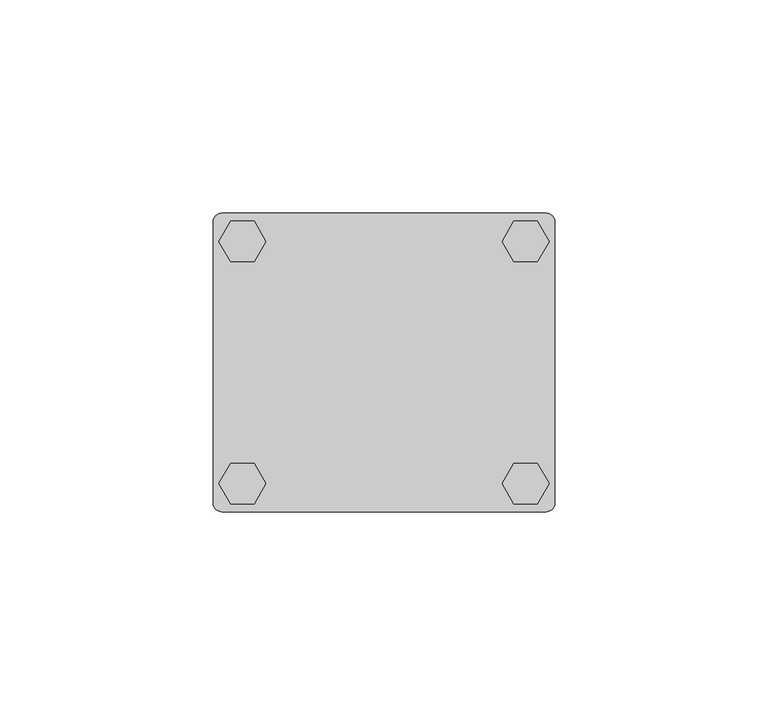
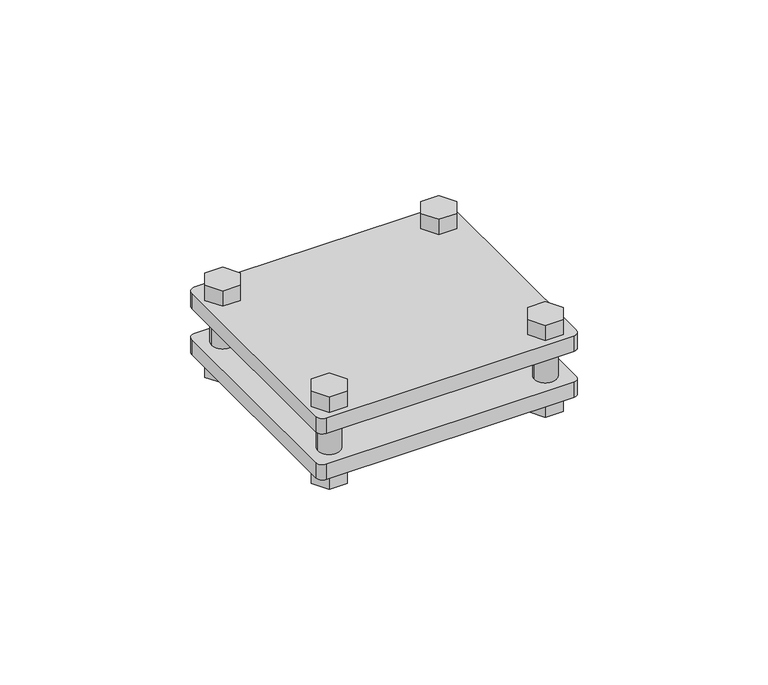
"""IFC4 building model written with IfcOpenShell, lengths in millimetres: proxy geometry, КНС_СоединительПолосаПолоса_DKC : NG3105CU_Медь_80х70 мм."""

from ifc_helpers import new_model, si_unit, point, frame, frame_2d, origin, place, context, project, spatial, polyline, circle_curve, trimmed, segment, composite_curve, outline, extrude, source, transform, mapped, element, save


def security_devices_68ae9aea(model_context):
    return source(origin(), model_context, "Body", "SweptSolid", [
        extrude(outline(composite_curve([segment(trimmed(circle_curve(frame_2d((-33.2121057, 28.28125)), 3.4209609), [point((-36.6330666, 28.28125))], [point((-29.7911448, 28.28125))], False, "CARTESIAN"), True, "CONTINUOUS"), segment(trimmed(circle_curve(frame_2d((-33.2121057, 28.28125)), 3.4209609), [point((-29.7911448, 28.28125))], [point((-36.6330666, 28.28125))], False, "CARTESIAN"), True, "CONTINUOUS")], self_intersect=False)), frame((0.0, 0.0, -10.0), z_axis=(0.0, 0.0, 1.0), x_axis=(1.0, 0.0, 0.0)), (0.0, 0.0, 1.0), 20.0),
        extrude(outline(composite_curve([segment(trimmed(circle_curve(frame_2d((33.2121057, 28.28125)), 3.4209609), [point((29.7911448, 28.28125))], [point((36.6330666, 28.28125))], False, "CARTESIAN"), True, "CONTINUOUS"), segment(trimmed(circle_curve(frame_2d((33.2121057, 28.28125)), 3.4209609), [point((36.6330666, 28.28125))], [point((29.7911448, 28.28125))], False, "CARTESIAN"), True, "CONTINUOUS")], self_intersect=False)), frame((0.0, 0.0, -10.0), z_axis=(0.0, 0.0, 1.0), x_axis=(1.0, 0.0, 0.0)), (0.0, 0.0, 1.0), 20.0),
        extrude(outline(composite_curve([segment(trimmed(circle_curve(frame_2d((-33.2121057, -28.28125)), 3.4209609), [point((-36.6330666, -28.28125))], [point((-29.7911448, -28.28125))], False, "CARTESIAN"), True, "CONTINUOUS"), segment(trimmed(circle_curve(frame_2d((-33.2121057, -28.28125)), 3.4209609), [point((-29.7911448, -28.28125))], [point((-36.6330666, -28.28125))], False, "CARTESIAN"), True, "CONTINUOUS")], self_intersect=False)), frame((0.0, 0.0, -10.0), z_axis=(0.0, 0.0, 1.0), x_axis=(1.0, 0.0, 0.0)), (0.0, 0.0, 1.0), 20.0),
        extrude(outline(composite_curve([segment(trimmed(circle_curve(frame_2d((33.2121057, -28.28125)), 3.4209609), [point((29.7911448, -28.28125))], [point((36.6330666, -28.28125))], False, "CARTESIAN"), True, "CONTINUOUS"), segment(trimmed(circle_curve(frame_2d((33.2121057, -28.28125)), 3.4209609), [point((36.6330666, -28.28125))], [point((29.7911448, -28.28125))], False, "CARTESIAN"), True, "CONTINUOUS")], self_intersect=False)), frame((0.0, 0.0, -10.0), z_axis=(0.0, 0.0, 1.0), x_axis=(1.0, 0.0, 0.0)), (0.0, 0.0, 1.0), 20.0),
        extrude(outline(polyline([(-38.6996224, 28.3883083), (-35.955864, 33.1406371), (-30.4683473, 33.1406371), (-27.724589, 28.3883083), (-30.4683473, 23.6359794), (-35.955864, 23.6359794), (-38.6996224, 28.3883083)])), frame((0.0, 0.0, -15.0), z_axis=(0.0, 0.0, 1.0), x_axis=(1.0, 0.0, 0.0)), (0.0, 0.0, 1.0), 5.0),
        extrude(outline(polyline([(38.6996224, 28.3883083), (35.955864, 23.6359794), (30.4683473, 23.6359794), (27.724589, 28.3883083), (30.4683473, 33.1406371), (35.955864, 33.1406371), (38.6996224, 28.3883083)])), frame((0.0, 0.0, -15.0), z_axis=(0.0, 0.0, 1.0), x_axis=(1.0, 0.0, 0.0)), (0.0, 0.0, 1.0), 5.0),
        extrude(outline(polyline([(-38.6996224, -28.3883083), (-35.955864, -23.6359794), (-30.4683473, -23.6359794), (-27.724589, -28.3883083), (-30.4683473, -33.1406371), (-35.955864, -33.1406371), (-38.6996224, -28.3883083)])), frame((0.0, 0.0, -15.0), z_axis=(0.0, 0.0, 1.0), x_axis=(1.0, 0.0, 0.0)), (0.0, 0.0, 1.0), 5.0),
        extrude(outline(polyline([(38.6996224, -28.3883083), (35.955864, -33.1406371), (30.4683473, -33.1406371), (27.724589, -28.3883083), (30.4683473, -23.6359794), (35.955864, -23.6359794), (38.6996224, -28.3883083)])), frame((0.0, 0.0, -15.0), z_axis=(0.0, 0.0, 1.0), x_axis=(1.0, 0.0, 0.0)), (0.0, 0.0, 1.0), 5.0),
        extrude(outline(polyline([(-38.6996224, 28.3883083), (-35.955864, 33.1406371), (-30.4683473, 33.1406371), (-27.724589, 28.3883083), (-30.4683473, 23.6359794), (-35.955864, 23.6359794), (-38.6996224, 28.3883083)])), frame((0.0, 0.0, 10.0), z_axis=(0.0, 0.0, 1.0), x_axis=(1.0, 0.0, 0.0)), (0.0, 0.0, 1.0), 5.0),
        extrude(outline(polyline([(38.6996224, 28.3883083), (35.955864, 23.6359794), (30.4683473, 23.6359794), (27.724589, 28.3883083), (30.4683473, 33.1406371), (35.955864, 33.1406371), (38.6996224, 28.3883083)])), frame((0.0, 0.0, 10.0), z_axis=(0.0, 0.0, 1.0), x_axis=(1.0, 0.0, 0.0)), (0.0, 0.0, 1.0), 5.0),
        extrude(outline(polyline([(-38.6996224, -28.3883083), (-35.955864, -23.6359794), (-30.4683473, -23.6359794), (-27.724589, -28.3883083), (-30.4683473, -33.1406371), (-35.955864, -33.1406371), (-38.6996224, -28.3883083)])), frame((0.0, 0.0, 10.0), z_axis=(0.0, 0.0, 1.0), x_axis=(1.0, 0.0, 0.0)), (0.0, 0.0, 1.0), 5.0),
        extrude(outline(polyline([(38.6996224, -28.3883083), (35.955864, -33.1406371), (30.4683473, -33.1406371), (27.724589, -28.3883083), (30.4683473, -23.6359794), (35.955864, -23.6359794), (38.6996224, -28.3883083)])), frame((0.0, 0.0, 10.0), z_axis=(0.0, 0.0, 1.0), x_axis=(1.0, 0.0, 0.0)), (0.0, 0.0, 1.0), 5.0),
        extrude(outline(composite_curve([segment(trimmed(circle_curve(frame_2d((38.0, 33.0)), 2.0), [point((38.0, 35.0))], [point((40.0, 33.0))], False, "CARTESIAN"), True, "CONTINUOUS"), segment(polyline([(40.0, 33.0), (40.0, -33.0)]), True, "CONTINUOUS"), segment(trimmed(circle_curve(frame_2d((38.0, -33.0)), 2.0), [point((40.0, -33.0))], [point((38.0, -35.0))], False, "CARTESIAN"), True, "CONTINUOUS"), segment(polyline([(38.0, -35.0), (-38.0, -35.0)]), True, "CONTINUOUS"), segment(trimmed(circle_curve(frame_2d((-38.0, -33.0)), 2.0), [point((-38.0, -35.0))], [point((-40.0, -33.0))], False, "CARTESIAN"), True, "CONTINUOUS"), segment(polyline([(-40.0, -33.0), (-40.0, 33.0)]), True, "CONTINUOUS"), segment(trimmed(circle_curve(frame_2d((-38.0, 33.0)), 2.0), [point((-40.0, 33.0))], [point((-38.0, 35.0))], False, "CARTESIAN"), True, "CONTINUOUS"), segment(polyline([(-38.0, 35.0), (38.0, 35.0)]), True, "CONTINUOUS")], self_intersect=False)), frame((0.0, 0.0, -10.0), z_axis=(0.0, 0.0, 1.0), x_axis=(1.0, 0.0, 0.0)), (0.0, 0.0, 1.0), 5.0),
        extrude(outline(composite_curve([segment(trimmed(circle_curve(frame_2d((38.0, 33.0)), 2.0), [point((38.0, 35.0))], [point((40.0, 33.0))], False, "CARTESIAN"), True, "CONTINUOUS"), segment(polyline([(40.0, 33.0), (40.0, -33.0)]), True, "CONTINUOUS"), segment(trimmed(circle_curve(frame_2d((38.0, -33.0)), 2.0), [point((40.0, -33.0))], [point((38.0, -35.0))], False, "CARTESIAN"), True, "CONTINUOUS"), segment(polyline([(38.0, -35.0), (-38.0, -35.0)]), True, "CONTINUOUS"), segment(trimmed(circle_curve(frame_2d((-38.0, -33.0)), 2.0), [point((-38.0, -35.0))], [point((-40.0, -33.0))], False, "CARTESIAN"), True, "CONTINUOUS"), segment(polyline([(-40.0, -33.0), (-40.0, 33.0)]), True, "CONTINUOUS"), segment(trimmed(circle_curve(frame_2d((-38.0, 33.0)), 2.0), [point((-40.0, 33.0))], [point((-38.0, 35.0))], False, "CARTESIAN"), True, "CONTINUOUS"), segment(polyline([(-38.0, 35.0), (38.0, 35.0)]), True, "CONTINUOUS")], self_intersect=False)), frame((0.0, 0.0, 5.0), z_axis=(0.0, 0.0, 1.0), x_axis=(1.0, 0.0, 0.0)), (0.0, 0.0, 1.0), 5.0),
    ])


if __name__ == "__main__":
    model = new_model("IFC4")
    model_context = context("Model", 3, world=origin())
    ifc_project = project(units=[si_unit("LENGTHUNIT", "METRE", prefix="MILLI")], contexts=[model_context])
    site = spatial("IfcSite", under=ifc_project)
    building = spatial("IfcBuilding", under=site)
    placement = place(None, origin())
    security_devices_shape = security_devices_68ae9aea(model_context)
    element("IfcBuildingElementProxy", 1, Name="КНС_СоединительПолосаПолоса_DKC : NG3105CU_Медь_80х70 мм", ObjectType="КНС_СоединительПолосаПолоса_DKC : NG3105CU_Медь_80х70 мм", at=placement, inside=building, context=model_context, shape_type="MappedRepresentation", body=[
        mapped(security_devices_shape, transform((0.0, 0.0, 0.0), x_axis=(1.0, 0.0, 0.0), y_axis=(0.0, 1.0, 0.0), z_axis=(0.0, 0.0, 1.0))),
    ])
    save(model, "model.ifc")
